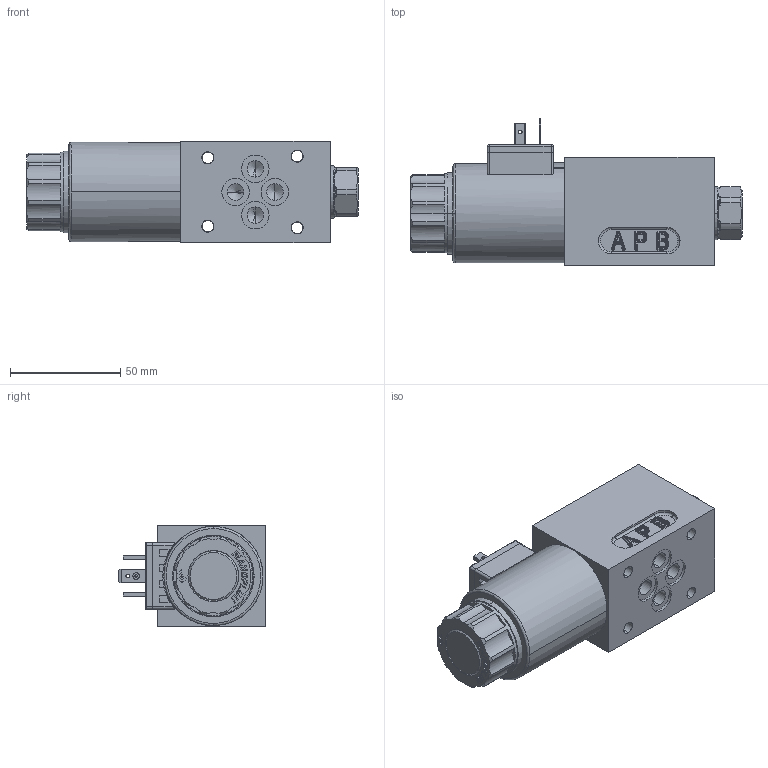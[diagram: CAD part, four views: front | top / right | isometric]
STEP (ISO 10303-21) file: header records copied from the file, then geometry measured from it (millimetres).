
FILE_DESCRIPTION (( 'STEP AP214' ), '1' );
FILE_NAME ('WDMFA06-4_2-Aside.STEP', '2017-03-17T14:53:41', ( '' ), ( '' ), 'SwSTEP 2.0', 'SolidWorks 2016', '' );
FILE_SCHEMA (( 'AUTOMOTIVE_DESIGN' ));
Length unit declared in the file: millimetre
Products named in the file (1): WDMFA06-4_2-Aside
Bounding box: 150.6 x 66.4 x 46 mm (x, y, z)
Volume: 248018.1 mm3; surface area: 63990 mm2
Topology: 13 solids, 13 shells, 976 faces, 2355 edges, 1410 vertices
Faces by surface type: cylinder 334, plane 319, torus 99, bspline 84, cone 83, sphere 57
Entity records: 45484 total; most frequent: CARTESIAN_POINT 12357, DIRECTION 4692, ORIENTED_EDGE 4590, EDGE_CURVE 2295, AXIS2_PLACEMENT_3D 1818, VERTEX_POINT 1409, EDGE_LOOP 1072, LINE 1056
